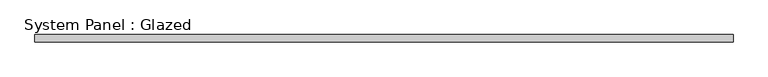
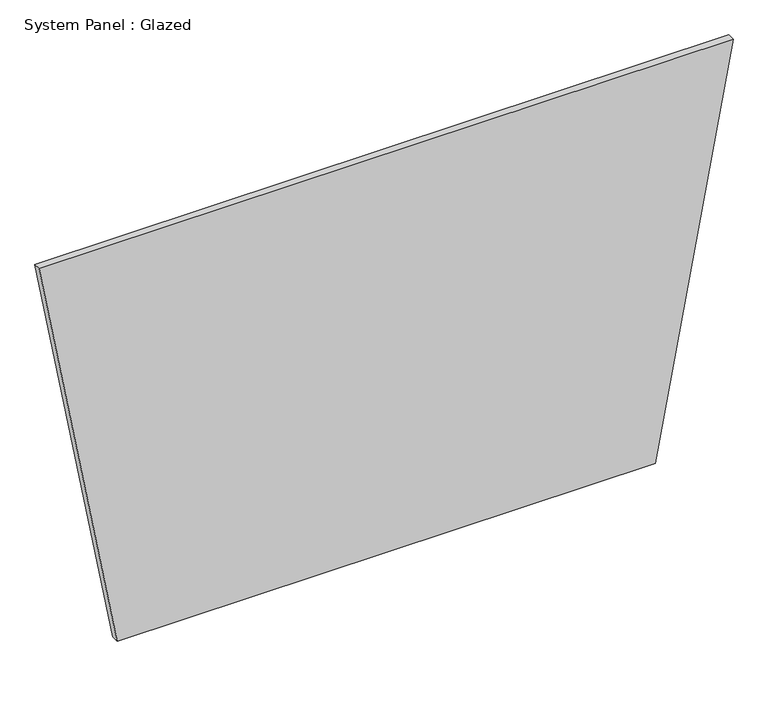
"""IFC4 building model written with IfcOpenShell, lengths in millimetres: plate geometry, System Panel : Glazed."""

from ifc_helpers import new_model, si_unit, frame, origin, place, context, project, spatial, polyline, outline, extrude, source, transform, mapped, element, save


def system_panel_glazed_3717604a(model_context):
    return source(origin(), model_context, "Body", "SweptSolid", [
        extrude(outline(polyline([(0.0, -916.1258562), (0.0, 916.1258562), (1435.0528112, 1181.710332), (1435.0528112, -1181.710332), (0.0, -916.1258562)])), frame((0.0, -44.45, 0.0), z_axis=(0.0, 1.0, 0.0), x_axis=(0.0, 0.0, 1.0)), (0.0, 0.0, 1.0), 25.4),
    ])


if __name__ == "__main__":
    model = new_model("IFC4")
    model_context = context("Model", 3, world=origin())
    ifc_project = project(units=[si_unit("LENGTHUNIT", "METRE", prefix="MILLI")], contexts=[model_context])
    site = spatial("IfcSite", under=ifc_project)
    building = spatial("IfcBuilding", under=site)
    placement = place(None, origin())
    system_panel_glazed_shape = system_panel_glazed_3717604a(model_context)
    element("IfcPlate", 1, ObjectType="System Panel : Glazed", at=placement, inside=building, context=model_context, shape_type="MappedRepresentation", body=[
        mapped(system_panel_glazed_shape, transform((0.0, 0.0, 0.0), x_axis=(1.0, 0.0, 0.0), y_axis=(0.0, 1.0, 0.0), z_axis=(0.0, 0.0, 1.0))),
    ])
    save(model, "model.ifc")
